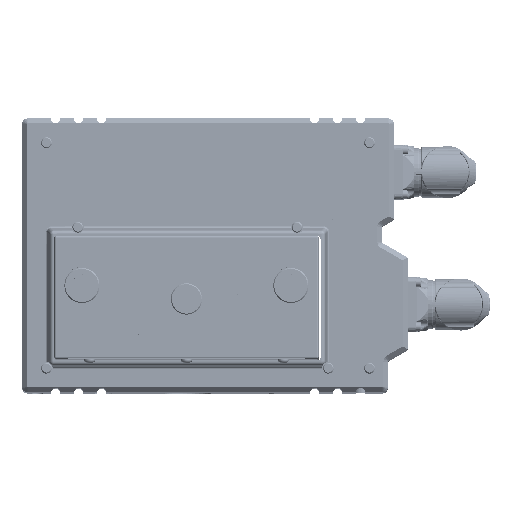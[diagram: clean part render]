
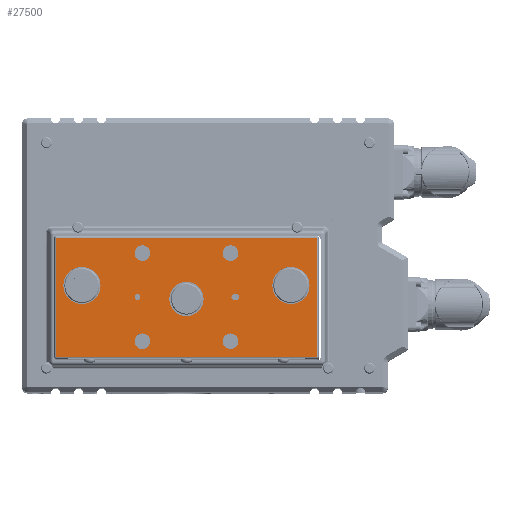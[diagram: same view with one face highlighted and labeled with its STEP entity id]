
A CAD part, top view. The second image highlights one B-rep face of the part: STEP entity #27500.
In plain terms, the highlighted planar face has unit normal (0, 0, 1).
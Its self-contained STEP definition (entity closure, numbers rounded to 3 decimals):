
#26586=CARTESIAN_POINT('',(-22.5,-22.5,19.05));
#26587=DIRECTION('',(0.,0.,-1.));
#26588=DIRECTION('',(-1.,0.,0.));
#26589=AXIS2_PLACEMENT_3D('',#26586,#26587,#26588);
#26591=CARTESIAN_POINT('',(-22.5,-22.5,19.05));
#26592=DIRECTION('',(0.,0.,-1.));
#26593=DIRECTION('',(1.,0.,0.));
#26594=AXIS2_PLACEMENT_3D('',#26591,#26592,#26593);
#26596=CARTESIAN_POINT('',(22.5,-22.5,19.05));
#26597=DIRECTION('',(0.,0.,-1.));
#26598=DIRECTION('',(-1.,0.,0.));
#26599=AXIS2_PLACEMENT_3D('',#26596,#26597,#26598);
#26601=CARTESIAN_POINT('',(22.5,-22.5,19.05));
#26602=DIRECTION('',(0.,0.,-1.));
#26603=DIRECTION('',(1.,0.,0.));
#26604=AXIS2_PLACEMENT_3D('',#26601,#26602,#26603);
#26606=CARTESIAN_POINT('',(-22.5,22.5,19.05));
#26607=DIRECTION('',(0.,0.,-1.));
#26608=DIRECTION('',(-1.,0.,0.));
#26609=AXIS2_PLACEMENT_3D('',#26606,#26607,#26608);
#26611=CARTESIAN_POINT('',(-22.5,22.5,19.05));
#26612=DIRECTION('',(0.,0.,-1.));
#26613=DIRECTION('',(1.,0.,0.));
#26614=AXIS2_PLACEMENT_3D('',#26611,#26612,#26613);
#26616=CARTESIAN_POINT('',(22.5,22.5,19.05));
#26617=DIRECTION('',(0.,0.,-1.));
#26618=DIRECTION('',(-1.,0.,0.));
#26619=AXIS2_PLACEMENT_3D('',#26616,#26617,#26618);
#26621=CARTESIAN_POINT('',(22.5,22.5,19.05));
#26622=DIRECTION('',(0.,0.,-1.));
#26623=DIRECTION('',(1.,0.,0.));
#26624=AXIS2_PLACEMENT_3D('',#26621,#26622,#26623);
#26626=CARTESIAN_POINT('',(53.375,5.995,19.05));
#26627=DIRECTION('',(0.,0.,1.));
#26628=DIRECTION('',(-1.,0.,0.));
#26629=AXIS2_PLACEMENT_3D('',#26626,#26627,#26628);
#26631=CARTESIAN_POINT('',(53.375,5.995,19.05));
#26632=DIRECTION('',(0.,0.,1.));
#26633=DIRECTION('',(1.,0.,0.));
#26634=AXIS2_PLACEMENT_3D('',#26631,#26632,#26633);
#26636=CARTESIAN_POINT('',(-53.375,5.995,19.05));
#26637=DIRECTION('',(0.,0.,1.));
#26638=DIRECTION('',(-1.,0.,0.));
#26639=AXIS2_PLACEMENT_3D('',#26636,#26637,#26638);
#26641=CARTESIAN_POINT('',(-53.375,5.995,19.05));
#26642=DIRECTION('',(0.,0.,1.));
#26643=DIRECTION('',(1.,0.,0.));
#26644=AXIS2_PLACEMENT_3D('',#26641,#26642,#26643);
#26646=DIRECTION('',(0.,1.,0.));
#26647=VECTOR('',#26646,61.);
#26648=CARTESIAN_POINT('',(66.5,-30.5,19.05));
#26649=LINE('',#26648,#26647);
#26650=DIRECTION('',(1.,0.,0.));
#26651=VECTOR('',#26650,133.);
#26652=CARTESIAN_POINT('',(-66.5,-30.5,19.05));
#26653=LINE('',#26652,#26651);
#26654=DIRECTION('',(0.,-1.,0.));
#26655=VECTOR('',#26654,61.);
#26656=CARTESIAN_POINT('',(-66.5,30.5,19.05));
#26657=LINE('',#26656,#26655);
#26658=DIRECTION('',(-1.,0.,0.));
#26659=VECTOR('',#26658,133.);
#26660=CARTESIAN_POINT('',(66.5,30.5,19.05));
#26661=LINE('',#26660,#26659);
#26662=CARTESIAN_POINT('',(0.,-0.881,19.05));
#26663=DIRECTION('',(0.,0.,1.));
#26664=DIRECTION('',(-1.,0.,0.));
#26665=AXIS2_PLACEMENT_3D('',#26662,#26663,#26664);
#26667=CARTESIAN_POINT('',(0.,-0.881,19.05));
#26668=DIRECTION('',(0.,0.,1.));
#26669=DIRECTION('',(1.,0.,0.));
#26670=AXIS2_PLACEMENT_3D('',#26667,#26668,#26669);
#26672=CARTESIAN_POINT('',(-25.,0.,19.05));
#26673=DIRECTION('',(0.,0.,-1.));
#26674=DIRECTION('',(-1.,0.,0.));
#26675=AXIS2_PLACEMENT_3D('',#26672,#26673,#26674);
#26677=CARTESIAN_POINT('',(-25.,0.,19.05));
#26678=DIRECTION('',(0.,0.,-1.));
#26679=DIRECTION('',(1.,0.,0.));
#26680=AXIS2_PLACEMENT_3D('',#26677,#26678,#26679);
#26682=CARTESIAN_POINT('',(24.5,0.,19.05));
#26683=DIRECTION('',(0.,0.,1.));
#26684=DIRECTION('',(0.,1.,0.));
#26685=AXIS2_PLACEMENT_3D('',#26682,#26683,#26684);
#26687=DIRECTION('',(1.,0.,0.));
#26688=VECTOR('',#26687,1.);
#26689=CARTESIAN_POINT('',(24.5,-1.519,19.05));
#26690=LINE('',#26689,#26688);
#26691=CARTESIAN_POINT('',(25.5,0.,19.05));
#26692=DIRECTION('',(0.,0.,1.));
#26693=DIRECTION('',(0.,-1.,0.));
#26694=AXIS2_PLACEMENT_3D('',#26691,#26692,#26693);
#26696=DIRECTION('',(-1.,0.,0.));
#26697=VECTOR('',#26696,1.);
#26698=CARTESIAN_POINT('',(25.5,1.519,19.05));
#26699=LINE('',#26698,#26697);
#27155=CARTESIAN_POINT('',(-26.5,-22.5,19.05));
#27156=CARTESIAN_POINT('',(-18.5,-22.5,19.05));
#27157=VERTEX_POINT('',#27155);
#27158=VERTEX_POINT('',#27156);
#27163=CARTESIAN_POINT('',(18.5,-22.5,19.05));
#27164=CARTESIAN_POINT('',(26.5,-22.5,19.05));
#27165=VERTEX_POINT('',#27163);
#27166=VERTEX_POINT('',#27164);
#27195=CARTESIAN_POINT('',(66.5,-30.5,19.05));
#27196=CARTESIAN_POINT('',(66.5,30.5,19.05));
#27197=VERTEX_POINT('',#27195);
#27198=VERTEX_POINT('',#27196);
#27203=CARTESIAN_POINT('',(-66.5,30.5,19.05));
#27204=VERTEX_POINT('',#27203);
#27209=CARTESIAN_POINT('',(-66.5,-30.5,19.05));
#27210=VERTEX_POINT('',#27209);
#27231=CARTESIAN_POINT('',(43.875,5.995,19.05));
#27232=CARTESIAN_POINT('',(62.875,5.995,19.05));
#27233=VERTEX_POINT('',#27231);
#27234=VERTEX_POINT('',#27232);
#27235=CARTESIAN_POINT('',(-62.875,5.995,19.05));
#27236=CARTESIAN_POINT('',(-43.875,5.995,19.05));
#27237=VERTEX_POINT('',#27235);
#27238=VERTEX_POINT('',#27236);
#27243=CARTESIAN_POINT('',(-26.5,22.5,19.05));
#27244=CARTESIAN_POINT('',(-18.5,22.5,19.05));
#27245=VERTEX_POINT('',#27243);
#27246=VERTEX_POINT('',#27244);
#27251=CARTESIAN_POINT('',(18.5,22.5,19.05));
#27252=CARTESIAN_POINT('',(26.5,22.5,19.05));
#27253=VERTEX_POINT('',#27251);
#27254=VERTEX_POINT('',#27252);
#27291=CARTESIAN_POINT('',(-8.75,-0.881,19.05));
#27292=CARTESIAN_POINT('',(8.75,-0.881,19.05));
#27293=VERTEX_POINT('',#27291);
#27294=VERTEX_POINT('',#27292);
#27299=CARTESIAN_POINT('',(-26.519,0.,19.05));
#27300=CARTESIAN_POINT('',(-23.481,0.,19.05));
#27301=VERTEX_POINT('',#27299);
#27302=VERTEX_POINT('',#27300);
#27311=CARTESIAN_POINT('',(24.5,1.519,19.05));
#27312=CARTESIAN_POINT('',(24.5,-1.519,19.05));
#27313=VERTEX_POINT('',#27311);
#27314=VERTEX_POINT('',#27312);
#27315=CARTESIAN_POINT('',(25.5,-1.519,19.05));
#27316=VERTEX_POINT('',#27315);
#27317=CARTESIAN_POINT('',(25.5,1.519,19.05));
#27318=VERTEX_POINT('',#27317);
#27428=CARTESIAN_POINT('',(0.,0.,19.05));
#27429=DIRECTION('',(0.,0.,1.));
#27430=DIRECTION('',(1.,0.,0.));
#27431=AXIS2_PLACEMENT_3D('',#27428,#27429,#27430);
#27432=PLANE('',#27431);
#27434=ORIENTED_EDGE('',*,*,#27433,.F.);
#27436=ORIENTED_EDGE('',*,*,#27435,.F.);
#27438=ORIENTED_EDGE('',*,*,#27437,.F.);
#27440=ORIENTED_EDGE('',*,*,#27439,.F.);
#27441=EDGE_LOOP('',(#27434,#27436,#27438,#27440));
#27442=FACE_OUTER_BOUND('',#27441,.F.);
#27444=ORIENTED_EDGE('',*,*,#27443,.F.);
#27446=ORIENTED_EDGE('',*,*,#27445,.F.);
#27447=EDGE_LOOP('',(#27444,#27446));
#27448=FACE_BOUND('',#27447,.F.);
#27450=ORIENTED_EDGE('',*,*,#27449,.F.);
#27452=ORIENTED_EDGE('',*,*,#27451,.F.);
#27453=EDGE_LOOP('',(#27450,#27452));
#27454=FACE_BOUND('',#27453,.F.);
#27456=ORIENTED_EDGE('',*,*,#27455,.F.);
#27458=ORIENTED_EDGE('',*,*,#27457,.F.);
#27459=EDGE_LOOP('',(#27456,#27458));
#27460=FACE_BOUND('',#27459,.F.);
#27462=ORIENTED_EDGE('',*,*,#27461,.F.);
#27464=ORIENTED_EDGE('',*,*,#27463,.F.);
#27465=EDGE_LOOP('',(#27462,#27464));
#27466=FACE_BOUND('',#27465,.F.);
#27467=ORIENTED_EDGE('',*,*,#27418,.T.);
#27469=ORIENTED_EDGE('',*,*,#27468,.T.);
#27470=EDGE_LOOP('',(#27467,#27469));
#27471=FACE_BOUND('',#27470,.F.);
#27473=ORIENTED_EDGE('',*,*,#27472,.T.);
#27475=ORIENTED_EDGE('',*,*,#27474,.T.);
#27476=EDGE_LOOP('',(#27473,#27475));
#27477=FACE_BOUND('',#27476,.F.);
#27479=ORIENTED_EDGE('',*,*,#27478,.T.);
#27481=ORIENTED_EDGE('',*,*,#27480,.T.);
#27482=EDGE_LOOP('',(#27479,#27481));
#27483=FACE_BOUND('',#27482,.F.);
#27485=ORIENTED_EDGE('',*,*,#27484,.F.);
#27487=ORIENTED_EDGE('',*,*,#27486,.F.);
#27488=EDGE_LOOP('',(#27485,#27487));
#27489=FACE_BOUND('',#27488,.F.);
#27491=ORIENTED_EDGE('',*,*,#27490,.T.);
#27493=ORIENTED_EDGE('',*,*,#27492,.T.);
#27495=ORIENTED_EDGE('',*,*,#27494,.T.);
#27497=ORIENTED_EDGE('',*,*,#27496,.T.);
#27498=EDGE_LOOP('',(#27491,#27493,#27495,#27497));
#27499=FACE_BOUND('',#27498,.F.);
#27500=ADVANCED_FACE('',(#27442,#27448,#27454,#27460,#27466,#27471,#27477,
#27483,#27489,#27499),#27432,.T.);
#26590=CIRCLE('',#26589,4.);
#26595=CIRCLE('',#26594,4.);
#26600=CIRCLE('',#26599,4.);
#26605=CIRCLE('',#26604,4.);
#26610=CIRCLE('',#26609,4.);
#26615=CIRCLE('',#26614,4.);
#26620=CIRCLE('',#26619,4.);
#26625=CIRCLE('',#26624,4.);
#26630=CIRCLE('',#26629,9.5);
#26635=CIRCLE('',#26634,9.5);
#26640=CIRCLE('',#26639,9.5);
#26645=CIRCLE('',#26644,9.5);
#26666=CIRCLE('',#26665,8.75);
#26671=CIRCLE('',#26670,8.75);
#26676=CIRCLE('',#26675,1.519);
#26681=CIRCLE('',#26680,1.519);
#26686=CIRCLE('',#26685,1.519);
#26695=CIRCLE('',#26694,1.519);
#27418=EDGE_CURVE('',#27233,#27234,#26630,.T.);
#27433=EDGE_CURVE('',#27197,#27198,#26649,.T.);
#27435=EDGE_CURVE('',#27210,#27197,#26653,.T.);
#27437=EDGE_CURVE('',#27204,#27210,#26657,.T.);
#27439=EDGE_CURVE('',#27198,#27204,#26661,.T.);
#27443=EDGE_CURVE('',#27157,#27158,#26590,.T.);
#27445=EDGE_CURVE('',#27158,#27157,#26595,.T.);
#27449=EDGE_CURVE('',#27165,#27166,#26600,.T.);
#27451=EDGE_CURVE('',#27166,#27165,#26605,.T.);
#27455=EDGE_CURVE('',#27245,#27246,#26610,.T.);
#27457=EDGE_CURVE('',#27246,#27245,#26615,.T.);
#27461=EDGE_CURVE('',#27253,#27254,#26620,.T.);
#27463=EDGE_CURVE('',#27254,#27253,#26625,.T.);
#27468=EDGE_CURVE('',#27234,#27233,#26635,.T.);
#27472=EDGE_CURVE('',#27237,#27238,#26640,.T.);
#27474=EDGE_CURVE('',#27238,#27237,#26645,.T.);
#27478=EDGE_CURVE('',#27293,#27294,#26666,.T.);
#27480=EDGE_CURVE('',#27294,#27293,#26671,.T.);
#27484=EDGE_CURVE('',#27301,#27302,#26676,.T.);
#27486=EDGE_CURVE('',#27302,#27301,#26681,.T.);
#27490=EDGE_CURVE('',#27313,#27314,#26686,.T.);
#27492=EDGE_CURVE('',#27314,#27316,#26690,.T.);
#27494=EDGE_CURVE('',#27316,#27318,#26695,.T.);
#27496=EDGE_CURVE('',#27318,#27313,#26699,.T.);
